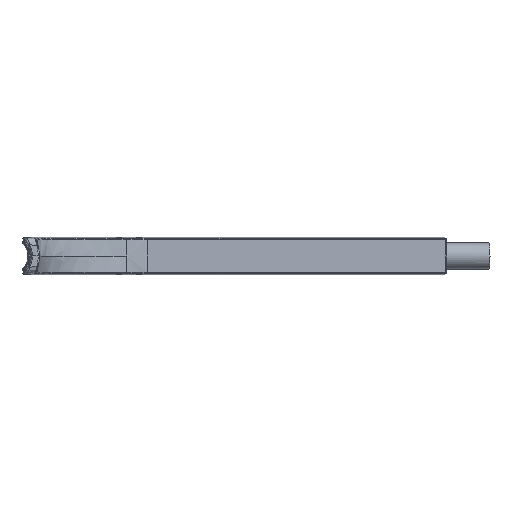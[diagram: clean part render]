
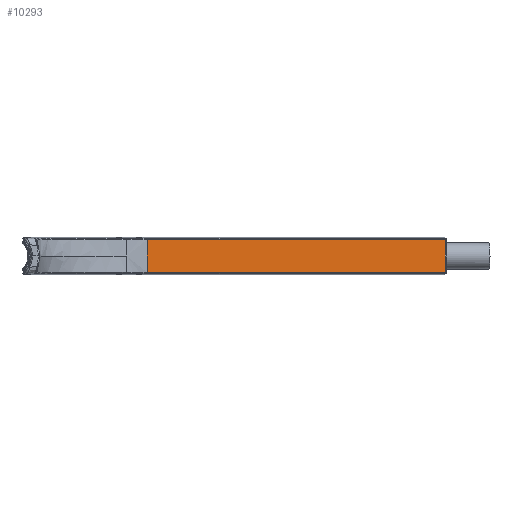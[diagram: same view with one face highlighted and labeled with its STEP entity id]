
A CAD part, front view. The second image highlights one B-rep face of the part: STEP entity #10293.
In plain terms, the highlighted planar face has unit normal (0.087, -0.996, 0).
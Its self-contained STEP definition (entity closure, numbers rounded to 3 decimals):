
#1342=DIRECTION('',(0.,0.,-1.));
#1343=VECTOR('',#1342,74.364);
#1344=CARTESIAN_POINT('',(319.44,965.459,37.182));
#1345=LINE('63291',#1344,#1343);
#1366=DIRECTION('',(-0.996,-0.087,0.));
#1367=VECTOR('',#1366,680.16);
#1368=CARTESIAN_POINT('',(997.011,1024.739,-37.182));
#1369=LINE('71163',#1368,#1367);
#1370=DIRECTION('',(-0.996,-0.087,0.));
#1371=VECTOR('',#1370,680.16);
#1372=CARTESIAN_POINT('',(997.011,1024.739,37.182));
#1373=LINE('71662',#1372,#1371);
#1374=DIRECTION('',(0.,0.,1.));
#1375=VECTOR('',#1374,74.364);
#1376=CARTESIAN_POINT('',(997.011,1024.739,-37.182));
#1377=LINE('49936',#1376,#1375);
#6409=CARTESIAN_POINT('',(997.011,1024.739,-37.182));
#6411=VERTEX_POINT('',#6409);
#6422=CARTESIAN_POINT('',(997.011,1024.739,37.182));
#6424=VERTEX_POINT('',#6422);
#6489=CARTESIAN_POINT('',(319.44,965.459,-37.182));
#6490=VERTEX_POINT('',#6489);
#6575=CARTESIAN_POINT('',(319.44,965.459,37.182));
#6576=VERTEX_POINT('',#6575);
#10279=CARTESIAN_POINT('',(1000.,1025.,0.));
#10280=DIRECTION('',(0.087,-0.996,0.));
#10281=DIRECTION('',(-0.996,-0.087,0.));
#10282=AXIS2_PLACEMENT_3D('',#10279,#10280,#10281);
#10283=PLANE('32909',#10282);
#10285=ORIENTED_EDGE('49936',*,*,#10284,.F.);
#10287=ORIENTED_EDGE('71163',*,*,#10286,.T.);
#10288=ORIENTED_EDGE('63291',*,*,#10264,.F.);
#10290=ORIENTED_EDGE('71662',*,*,#10289,.F.);
#10291=EDGE_LOOP('32909',(#10285,#10287,#10288,#10290));
#10292=FACE_OUTER_BOUND('32909',#10291,.F.);
#10293=ADVANCED_FACE('32909',(#10292),#10283,.T.);
#10264=EDGE_CURVE('63291',#6576,#6490,#1345,.T.);
#10284=EDGE_CURVE('49936',#6411,#6424,#1377,.T.);
#10286=EDGE_CURVE('71163',#6411,#6490,#1369,.T.);
#10289=EDGE_CURVE('71662',#6424,#6576,#1373,.T.);
